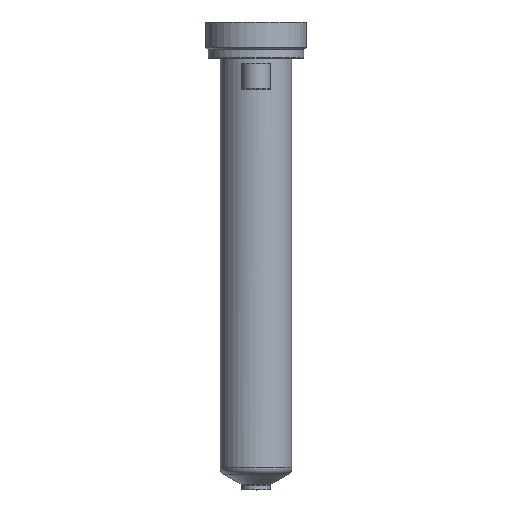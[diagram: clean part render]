
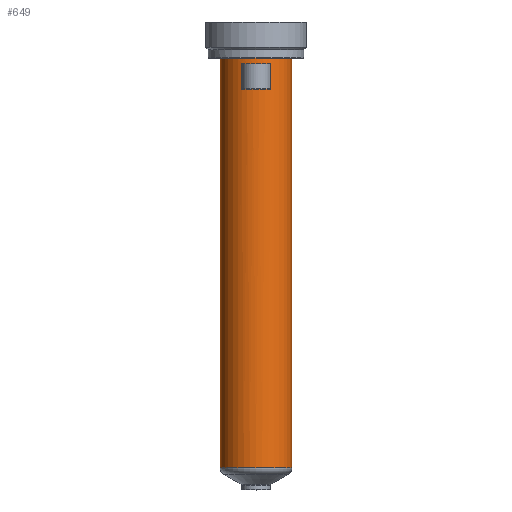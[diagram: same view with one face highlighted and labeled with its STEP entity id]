
A CAD part, top view. The second image highlights one B-rep face of the part: STEP entity #649.
In plain terms, the highlighted cylindrical face has radius 15 mm (diameter 30 mm), a partial arc.
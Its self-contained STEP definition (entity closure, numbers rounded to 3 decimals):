
#161=DIRECTION('',(0.,-1.,0.));
#162=VECTOR('',#161,170.783);
#163=CARTESIAN_POINT('',(15.,0.,0.));
#164=LINE('',#163,#162);
#165=CARTESIAN_POINT('',(0.,-170.783,0.));
#166=DIRECTION('',(0.,1.,0.));
#167=DIRECTION('',(-1.,0.,0.));
#168=AXIS2_PLACEMENT_3D('',#165,#166,#167);
#170=DIRECTION('',(0.,1.,0.));
#171=VECTOR('',#170,170.783);
#172=CARTESIAN_POINT('',(-15.,-170.783,0.));
#173=LINE('',#172,#171);
#174=CARTESIAN_POINT('',(0.,0.,0.));
#175=DIRECTION('',(0.,1.,0.));
#176=DIRECTION('',(-1.,0.,0.));
#177=AXIS2_PLACEMENT_3D('',#174,#175,#176);
#255=DIRECTION('',(0.,-1.,0.));
#256=VECTOR('',#255,10.5);
#257=CARTESIAN_POINT('',(-6.,-2.5,13.748));
#258=LINE('',#257,#256);
#263=CARTESIAN_POINT('',(0.,-13.,0.));
#264=DIRECTION('',(0.,1.,0.));
#265=DIRECTION('',(-0.4,0.,0.917));
#266=AXIS2_PLACEMENT_3D('',#263,#264,#265);
#298=CARTESIAN_POINT('',(0.,-2.5,0.));
#299=DIRECTION('',(0.,-1.,0.));
#300=DIRECTION('',(0.4,0.,0.917));
#301=AXIS2_PLACEMENT_3D('',#298,#299,#300);
#303=DIRECTION('',(0.,-1.,0.));
#304=VECTOR('',#303,10.5);
#305=CARTESIAN_POINT('',(6.,-2.5,13.748));
#306=LINE('',#305,#304);
#390=CARTESIAN_POINT('',(-15.,0.,0.));
#391=CARTESIAN_POINT('',(15.,0.,0.));
#392=VERTEX_POINT('',#390);
#393=VERTEX_POINT('',#391);
#402=CARTESIAN_POINT('',(6.,-2.5,13.748));
#403=VERTEX_POINT('',#402);
#404=CARTESIAN_POINT('',(-6.,-2.5,13.748));
#405=VERTEX_POINT('',#404);
#414=CARTESIAN_POINT('',(15.,-170.783,0.));
#415=VERTEX_POINT('',#414);
#424=CARTESIAN_POINT('',(-15.,-170.783,0.));
#425=VERTEX_POINT('',#424);
#426=CARTESIAN_POINT('',(-6.,-13.,13.748));
#427=CARTESIAN_POINT('',(6.,-13.,13.748));
#428=VERTEX_POINT('',#426);
#429=VERTEX_POINT('',#427);
#627=CARTESIAN_POINT('',(0.,16.4,0.));
#628=DIRECTION('',(0.,-1.,0.));
#629=DIRECTION('',(-1.,0.,0.));
#630=AXIS2_PLACEMENT_3D('',#627,#628,#629);
#631=CYLINDRICAL_SURFACE('',#630,15.);
#632=ORIENTED_EDGE('',*,*,#621,.T.);
#634=ORIENTED_EDGE('',*,*,#633,.F.);
#635=ORIENTED_EDGE('',*,*,#617,.T.);
#636=ORIENTED_EDGE('',*,*,#607,.T.);
#637=EDGE_LOOP('',(#632,#634,#635,#636));
#638=FACE_OUTER_BOUND('',#637,.F.);
#640=ORIENTED_EDGE('',*,*,#639,.T.);
#642=ORIENTED_EDGE('',*,*,#641,.T.);
#644=ORIENTED_EDGE('',*,*,#643,.F.);
#646=ORIENTED_EDGE('',*,*,#645,.T.);
#647=EDGE_LOOP('',(#640,#642,#644,#646));
#648=FACE_BOUND('',#647,.F.);
#649=ADVANCED_FACE('',(#638,#648),#631,.T.);
#169=CIRCLE('',#168,15.);
#178=CIRCLE('',#177,15.);
#267=CIRCLE('',#266,15.);
#302=CIRCLE('',#301,15.);
#607=EDGE_CURVE('',#392,#393,#178,.T.);
#617=EDGE_CURVE('',#425,#392,#173,.T.);
#621=EDGE_CURVE('',#393,#415,#164,.T.);
#633=EDGE_CURVE('',#425,#415,#169,.T.);
#639=EDGE_CURVE('',#405,#428,#258,.T.);
#641=EDGE_CURVE('',#428,#429,#267,.T.);
#643=EDGE_CURVE('',#403,#429,#306,.T.);
#645=EDGE_CURVE('',#403,#405,#302,.T.);
